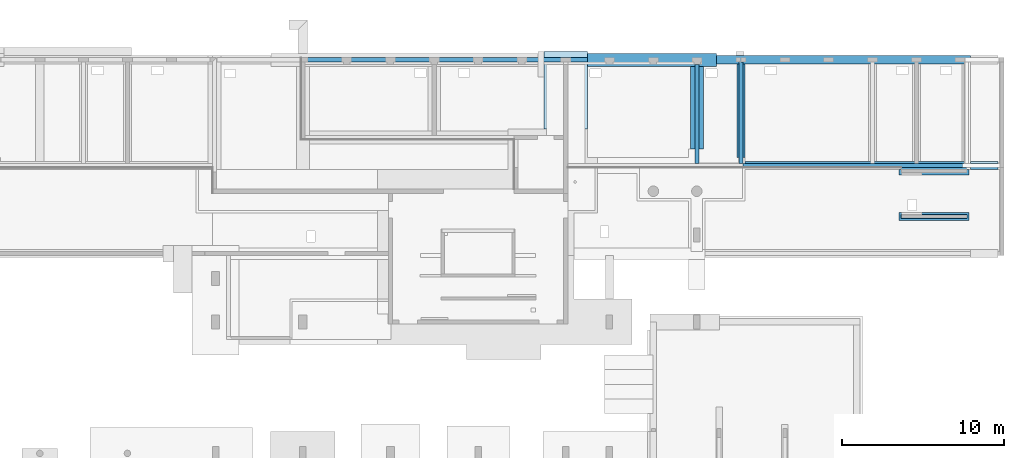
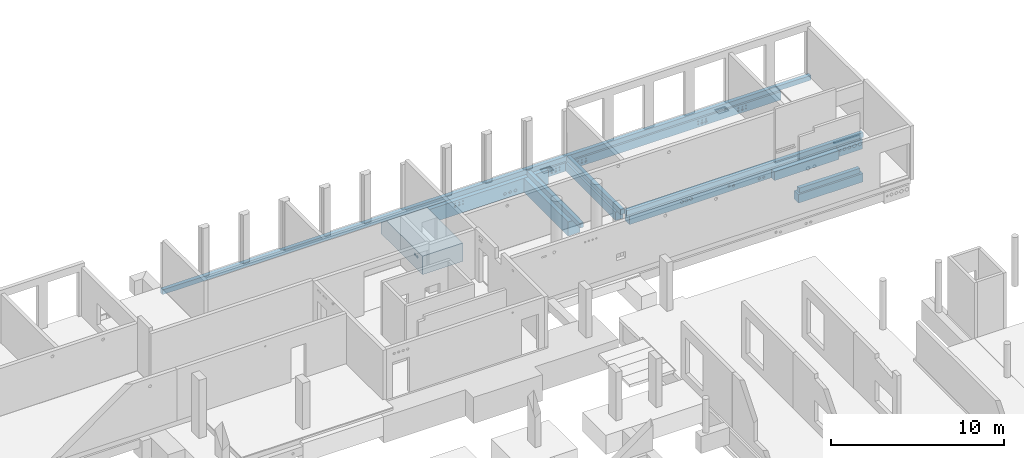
# One storey, part 8 of 60: 15 footings.
"""IFC2X3 building model written with IfcOpenShell, lengths in millimetres."""

from ifc_helpers import new_model, entity, si_unit, converted_unit, derived_unit, direction, frame, frame_2d, origin, origin_2d_with_axis, place, context, subcontext, project, spatial, polyline, circle_curve, parameter, trimmed, segment, composite_curve, rectangle, outline, extrude, material, element, save


model = new_model("IFC2X3")

# Units and contexts
model_context = context("Model", 3, precision=0.01, world=origin(), true_north=direction((6.12303176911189e-17, 1.0)))
body_context = subcontext(model_context, "Body", "Model", "MODEL_VIEW")
ifc_project = project(units=[si_unit("LENGTHUNIT", "METRE", prefix="MILLI"), si_unit("AREAUNIT", "SQUARE_METRE"), si_unit("VOLUMEUNIT", "CUBIC_METRE"), converted_unit("PLANEANGLEUNIT", "DEGREE", entity("IfcRatioMeasure", 0.0174532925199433), si_unit("PLANEANGLEUNIT", "RADIAN"), dimensions=[0, 0, 0, 0, 0, 0, 0]), si_unit("MASSUNIT", "GRAM", prefix="KILO"), derived_unit("MASSDENSITYUNIT", [(si_unit("MASSUNIT", "GRAM", prefix="KILO"), 1), (si_unit("LENGTHUNIT", "METRE"), -3)]), si_unit("TIMEUNIT", "SECOND"), si_unit("FREQUENCYUNIT", "HERTZ"), si_unit("THERMODYNAMICTEMPERATUREUNIT", "DEGREE_CELSIUS"), derived_unit("THERMALTRANSMITTANCEUNIT", [(si_unit("MASSUNIT", "GRAM", prefix="KILO"), 1), (si_unit("THERMODYNAMICTEMPERATUREUNIT", "KELVIN"), -1), (si_unit("TIMEUNIT", "SECOND"), -3)]), derived_unit("VOLUMETRICFLOWRATEUNIT", [(si_unit("LENGTHUNIT", "METRE"), 3), (si_unit("TIMEUNIT", "SECOND"), -1)]), si_unit("ELECTRICCURRENTUNIT", "AMPERE"), si_unit("ELECTRICVOLTAGEUNIT", "VOLT"), si_unit("POWERUNIT", "WATT"), si_unit("FORCEUNIT", "NEWTON", prefix="KILO"), si_unit("ILLUMINANCEUNIT", "LUX"), si_unit("LUMINOUSFLUXUNIT", "LUMEN"), si_unit("LUMINOUSINTENSITYUNIT", "CANDELA"), derived_unit("USERDEFINED", [(si_unit("MASSUNIT", "GRAM", prefix="KILO"), -1), (si_unit("LENGTHUNIT", "METRE"), -2), (si_unit("TIMEUNIT", "SECOND"), 3), (si_unit("LUMINOUSFLUXUNIT", "LUMEN"), 1)]), derived_unit("LINEARVELOCITYUNIT", [(si_unit("LENGTHUNIT", "METRE"), 1), (si_unit("TIMEUNIT", "SECOND"), -1)]), si_unit("PRESSUREUNIT", "PASCAL"), derived_unit("USERDEFINED", [(si_unit("LENGTHUNIT", "METRE"), -2), (si_unit("MASSUNIT", "GRAM", prefix="KILO"), 1), (si_unit("TIMEUNIT", "SECOND"), -2)])], contexts=[model_context])

# Site, building, storey
site_placement = place(None, origin())
site = spatial("IfcSite", under=ifc_project, at=site_placement, Name="Default", CompositionType="ELEMENT")
building_placement = place(site_placement, origin())
building = spatial("IfcBuilding", under=site, at=building_placement, Name="niet gebruiken", CompositionType="ELEMENT")
storey_placement = place(building_placement, origin())
storey = spatial("IfcBuildingStorey", under=building, at=storey_placement, Name="00 begane grond", CompositionType="ELEMENT", Elevation=0.0)

# Footings
ifc_material = material(Name="NLRS_f2_beton ihwg")
footing_1_placement = place(storey_placement, origin())
element("IfcFooting", 1, at=footing_1_placement, inside=storey, material=ifc_material, Name="NLRS_16.12_SF_WPB_funderingsbalk ihwg recht_gen:500x600", ObjectType="NLRS_16.12_SF_WPB_funderingsbalk ihwg recht_gen:500x600", PredefinedType="FOOTING_BEAM", context=body_context, shape_type="SweptSolid", body=[
    extrude(outline(polyline([(-8616.66655998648, -300.0), (-7366.66655998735, -300.0), (-6866.66655998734, -300.0), (733.333440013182, -300.0), (1233.33344001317, -300.0), (3433.33344001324, -300.0), (3933.33344001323, -300.0), (6508.33247989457, -300.0), (7008.33344001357, -300.0), (7008.33344001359, 300.0), (6508.33247989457, 300.0), (3933.33344001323, 300.0), (3433.33344001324, 300.0), (1233.33344001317, 300.0), (733.333440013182, 300.0), (-6866.66655998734, 300.0), (-7366.66655998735, 300.0), (-8616.66655998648, 300.0), (-8616.66655998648, -300.0)]), holes=[composite_curve([segment(trimmed(circle_curve(frame_2d((-7776.66655998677, 83.0), x_axis=(1.0, 0.0)), 37.5), [parameter(4.07110999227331e-13)], [parameter(180.0)], True, "PARAMETER"), False, "CONTINUOUS"), segment(trimmed(circle_curve(frame_2d((-7776.66655998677, 83.0), x_axis=(1.0, 0.0)), 37.5), [parameter(180.0)], [parameter(360.0)], True, "PARAMETER"), False, "CONTINUOUS")], self_intersect=False), composite_curve([segment(trimmed(circle_curve(frame_2d((-8026.66655998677, 83.0), x_axis=(1.0, 0.0)), 62.5), [parameter(3.56222124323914e-13)], [parameter(180.0)], True, "PARAMETER"), False, "CONTINUOUS"), segment(trimmed(circle_curve(frame_2d((-8026.66655998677, 83.0), x_axis=(1.0, 0.0)), 62.5), [parameter(180.0)], [parameter(360.0)], True, "PARAMETER"), False, "CONTINUOUS")], self_intersect=False), composite_curve([segment(trimmed(circle_curve(frame_2d((-8301.66655998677, 83.0), x_axis=(1.0, 0.0)), 62.5), [parameter(3.56222124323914e-13)], [parameter(180.0)], True, "PARAMETER"), False, "CONTINUOUS"), segment(trimmed(circle_curve(frame_2d((-8301.66655998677, 83.0), x_axis=(1.0, 0.0)), 62.5), [parameter(180.0)], [parameter(360.0)], True, "PARAMETER"), False, "CONTINUOUS")], self_intersect=False), composite_curve([segment(trimmed(circle_curve(frame_2d((-7776.66655998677, -117.0), x_axis=(1.0, 0.0)), 40.0), [parameter(4.07110999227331e-13)], [parameter(180.0)], True, "PARAMETER"), False, "CONTINUOUS"), segment(trimmed(circle_curve(frame_2d((-7776.66655998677, -117.0), x_axis=(1.0, 0.0)), 40.0), [parameter(180.0)], [parameter(360.0)], True, "PARAMETER"), False, "CONTINUOUS")], self_intersect=False), composite_curve([segment(trimmed(circle_curve(frame_2d((-8026.66655998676, -117.0), x_axis=(1.0, 0.0)), 37.5), [parameter(4.07110999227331e-13)], [parameter(180.0)], True, "PARAMETER"), False, "CONTINUOUS"), segment(trimmed(circle_curve(frame_2d((-8026.66655998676, -117.0), x_axis=(1.0, 0.0)), 37.5), [parameter(180.0)], [parameter(360.0)], True, "PARAMETER"), False, "CONTINUOUS")], self_intersect=False), composite_curve([segment(trimmed(circle_curve(frame_2d((-8301.66655998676, -117.0), x_axis=(1.0, 0.0)), 40.0), [parameter(4.07110999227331e-13)], [parameter(180.0)], True, "PARAMETER"), False, "CONTINUOUS"), segment(trimmed(circle_curve(frame_2d((-8301.66655998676, -117.0), x_axis=(1.0, 0.0)), 40.0), [parameter(180.0)], [parameter(360.0)], True, "PARAMETER"), False, "CONTINUOUS")], self_intersect=False), composite_curve([segment(trimmed(circle_curve(frame_2d((2008.33344001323, 88.0), x_axis=(-1.0, 0.0)), 80.0), [parameter(180.0)], [parameter(360.0)], True, "PARAMETER"), False, "CONTINUOUS"), segment(trimmed(circle_curve(frame_2d((2008.33344001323, 88.0), x_axis=(-1.0, 0.0)), 80.0), [parameter(3.05333249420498e-13)], [parameter(180.0)], True, "PARAMETER"), False, "CONTINUOUS")], self_intersect=False), composite_curve([segment(trimmed(circle_curve(frame_2d((1733.33344001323, 88.0), x_axis=(-1.0, 0.0)), 80.0), [parameter(180.0)], [parameter(360.0)], True, "PARAMETER"), False, "CONTINUOUS"), segment(trimmed(circle_curve(frame_2d((1733.33344001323, 88.0), x_axis=(-1.0, 0.0)), 80.0), [parameter(3.05333249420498e-13)], [parameter(180.0)], True, "PARAMETER"), False, "CONTINUOUS")], self_intersect=False), composite_curve([segment(trimmed(circle_curve(frame_2d((1483.33344001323, 83.0), x_axis=(-1.0, 0.0)), 37.5), [parameter(180.0)], [parameter(360.0)], True, "PARAMETER"), False, "CONTINUOUS"), segment(trimmed(circle_curve(frame_2d((1483.33344001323, 83.0), x_axis=(-1.0, 0.0)), 37.5), [parameter(4.07110999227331e-13)], [parameter(180.0)], True, "PARAMETER"), False, "CONTINUOUS")], self_intersect=False), composite_curve([segment(trimmed(circle_curve(frame_2d((2008.33344001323, -117.0), x_axis=(-1.0, 0.0)), 40.0), [parameter(180.0)], [parameter(360.0)], True, "PARAMETER"), False, "CONTINUOUS"), segment(trimmed(circle_curve(frame_2d((2008.33344001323, -117.0), x_axis=(-1.0, 0.0)), 40.0), [parameter(4.07110999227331e-13)], [parameter(180.0)], True, "PARAMETER"), False, "CONTINUOUS")], self_intersect=False), composite_curve([segment(trimmed(circle_curve(frame_2d((1733.33344001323, -117.0), x_axis=(-1.0, 0.0)), 37.5), [parameter(180.0)], [parameter(360.0)], True, "PARAMETER"), False, "CONTINUOUS"), segment(trimmed(circle_curve(frame_2d((1733.33344001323, -117.0), x_axis=(-1.0, 0.0)), 37.5), [parameter(4.07110999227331e-13)], [parameter(180.0)], True, "PARAMETER"), False, "CONTINUOUS")], self_intersect=False), composite_curve([segment(trimmed(circle_curve(frame_2d((1483.33344001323, -117.0), x_axis=(-1.0, 0.0)), 40.0), [parameter(180.0)], [parameter(360.0)], True, "PARAMETER"), False, "CONTINUOUS"), segment(trimmed(circle_curve(frame_2d((1483.33344001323, -117.0), x_axis=(-1.0, 0.0)), 40.0), [parameter(4.07110999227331e-13)], [parameter(180.0)], True, "PARAMETER"), False, "CONTINUOUS")], self_intersect=False), composite_curve([segment(trimmed(circle_curve(frame_2d((4683.33344001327, 83.0), x_axis=(1.0, 0.0)), 37.5), [parameter(4.07110999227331e-13)], [parameter(180.0)], True, "PARAMETER"), False, "CONTINUOUS"), segment(trimmed(circle_curve(frame_2d((4683.33344001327, 83.0), x_axis=(1.0, 0.0)), 37.5), [parameter(180.0)], [parameter(360.0)], True, "PARAMETER"), False, "CONTINUOUS")], self_intersect=False), composite_curve([segment(trimmed(circle_curve(frame_2d((4433.33344001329, 83.0), x_axis=(1.0, 0.0)), 62.5), [parameter(3.56222124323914e-13)], [parameter(180.0)], True, "PARAMETER"), False, "CONTINUOUS"), segment(trimmed(circle_curve(frame_2d((4433.33344001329, 83.0), x_axis=(1.0, 0.0)), 62.5), [parameter(180.0)], [parameter(360.0)], True, "PARAMETER"), False, "CONTINUOUS")], self_intersect=False), composite_curve([segment(trimmed(circle_curve(frame_2d((4158.33344001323, 83.0), x_axis=(1.0, 0.0)), 62.5), [parameter(3.56222124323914e-13)], [parameter(180.0)], True, "PARAMETER"), False, "CONTINUOUS"), segment(trimmed(circle_curve(frame_2d((4158.33344001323, 83.0), x_axis=(1.0, 0.0)), 62.5), [parameter(180.0)], [parameter(360.0)], True, "PARAMETER"), False, "CONTINUOUS")], self_intersect=False), composite_curve([segment(trimmed(circle_curve(frame_2d((4158.3334400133, -117.0), x_axis=(1.0, 0.0)), 40.0), [parameter(4.07110999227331e-13)], [parameter(180.0)], True, "PARAMETER"), False, "CONTINUOUS"), segment(trimmed(circle_curve(frame_2d((4158.3334400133, -117.0), x_axis=(1.0, 0.0)), 40.0), [parameter(180.0)], [parameter(360.0)], True, "PARAMETER"), False, "CONTINUOUS")], self_intersect=False), composite_curve([segment(trimmed(circle_curve(frame_2d((4433.33344001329, -117.0), x_axis=(1.0, 0.0)), 37.5), [parameter(4.07110999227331e-13)], [parameter(180.0)], True, "PARAMETER"), False, "CONTINUOUS"), segment(trimmed(circle_curve(frame_2d((4433.33344001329, -117.0), x_axis=(1.0, 0.0)), 37.5), [parameter(180.0)], [parameter(360.0)], True, "PARAMETER"), False, "CONTINUOUS")], self_intersect=False), composite_curve([segment(trimmed(circle_curve(frame_2d((4683.33344001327, -117.0), x_axis=(1.0, 0.0)), 40.0), [parameter(4.07110999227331e-13)], [parameter(180.0)], True, "PARAMETER"), False, "CONTINUOUS"), segment(trimmed(circle_curve(frame_2d((4683.33344001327, -117.0), x_axis=(1.0, 0.0)), 40.0), [parameter(180.0)], [parameter(360.0)], True, "PARAMETER"), False, "CONTINUOUS")], self_intersect=False), composite_curve([segment(trimmed(circle_curve(frame_2d((-6291.66655998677, 83.0), x_axis=(-1.0, 0.0)), 62.5), [parameter(180.0)], [parameter(360.0)], True, "PARAMETER"), False, "CONTINUOUS"), segment(trimmed(circle_curve(frame_2d((-6291.66655998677, 83.0), x_axis=(-1.0, 0.0)), 62.5), [parameter(3.56222124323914e-13)], [parameter(180.0)], True, "PARAMETER"), False, "CONTINUOUS")], self_intersect=False), composite_curve([segment(trimmed(circle_curve(frame_2d((-6016.66655998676, 83.0), x_axis=(-1.0, 0.0)), 62.5), [parameter(180.0)], [parameter(360.0)], True, "PARAMETER"), False, "CONTINUOUS"), segment(trimmed(circle_curve(frame_2d((-6016.66655998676, 83.0), x_axis=(-1.0, 0.0)), 62.5), [parameter(3.56222124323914e-13)], [parameter(180.0)], True, "PARAMETER"), False, "CONTINUOUS")], self_intersect=False), composite_curve([segment(trimmed(circle_curve(frame_2d((-6016.66655998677, -117.0), x_axis=(-1.0, 0.0)), 40.0), [parameter(180.0)], [parameter(360.0)], True, "PARAMETER"), False, "CONTINUOUS"), segment(trimmed(circle_curve(frame_2d((-6016.66655998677, -117.0), x_axis=(-1.0, 0.0)), 40.0), [parameter(4.07110999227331e-13)], [parameter(180.0)], True, "PARAMETER"), False, "CONTINUOUS")], self_intersect=False), composite_curve([segment(trimmed(circle_curve(frame_2d((-6541.66655998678, 83.0), x_axis=(-1.0, 0.0)), 37.5), [parameter(180.0)], [parameter(360.0)], True, "PARAMETER"), False, "CONTINUOUS"), segment(trimmed(circle_curve(frame_2d((-6541.66655998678, 83.0), x_axis=(-1.0, 0.0)), 37.5), [parameter(4.07110999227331e-13)], [parameter(180.0)], True, "PARAMETER"), False, "CONTINUOUS")], self_intersect=False), composite_curve([segment(trimmed(circle_curve(frame_2d((-6541.66655998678, -117.0), x_axis=(-1.0, 0.0)), 40.0), [parameter(180.0)], [parameter(360.0)], True, "PARAMETER"), False, "CONTINUOUS"), segment(trimmed(circle_curve(frame_2d((-6541.66655998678, -117.0), x_axis=(-1.0, 0.0)), 40.0), [parameter(4.07110999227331e-13)], [parameter(180.0)], True, "PARAMETER"), False, "CONTINUOUS")], self_intersect=False), composite_curve([segment(trimmed(circle_curve(frame_2d((-6291.66655998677, -117.0), x_axis=(-1.0, 0.0)), 37.5), [parameter(180.0)], [parameter(360.0)], True, "PARAMETER"), False, "CONTINUOUS"), segment(trimmed(circle_curve(frame_2d((-6291.66655998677, -117.0), x_axis=(-1.0, 0.0)), 37.5), [parameter(4.07110999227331e-13)], [parameter(180.0)], True, "PARAMETER"), False, "CONTINUOUS")], self_intersect=False)]), frame((115116.666559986, 52881.0, -792.0), z_axis=(0.0, 1.0, 0.0), x_axis=(1.0, 0.0, 0.0)), (0.0, 0.0, 1.0), 499.999999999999),
])
footing_2_placement = place(storey_placement, origin())
element("IfcFooting", 2, at=footing_2_placement, inside=storey, material=ifc_material, Name="NLRS_16.12_SF_WPB_funderingsbalk ihwg recht_gen:500x610", ObjectType="NLRS_16.12_SF_WPB_funderingsbalk ihwg recht_gen:500x610", PredefinedType="FOOTING_BEAM", context=body_context, shape_type="SweptSolid", body=[
    extrude(outline(polyline([(-4586.24927991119, -305.0), (-4511.25024002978, -305.0), (-191.250240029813, -305.0), (9288.74975997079, -305.0), (9288.74975997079, 305.0), (-191.250240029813, 305.0), (-4511.25024002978, 305.0), (-4586.24927991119, 305.0), (-4586.24927991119, -305.0)]), holes=[composite_curve([segment(trimmed(circle_curve(frame_2d((5776.25229360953, 82.0), x_axis=(-1.0, 0.0)), 99.999999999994), [parameter(0.0)], [parameter(180.000000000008)], True, "PARAMETER"), False, "CONTINUOUS"), segment(trimmed(circle_curve(frame_2d((5776.25229360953, 82.0), x_axis=(1.0, 0.0)), 99.9999999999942), [parameter(0.0)], [parameter(180.000000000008)], True, "PARAMETER"), False, "CONTINUOUS")], self_intersect=False), composite_curve([segment(trimmed(circle_curve(frame_2d((5476.2518122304, 82.0), x_axis=(-1.0, 0.0)), 99.999999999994), [parameter(0.0)], [parameter(180.000000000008)], True, "PARAMETER"), False, "CONTINUOUS"), segment(trimmed(circle_curve(frame_2d((5476.2518122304, 82.0), x_axis=(1.0, 0.0)), 99.9999999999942), [parameter(0.0)], [parameter(180.000000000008)], True, "PARAMETER"), False, "CONTINUOUS")], self_intersect=False), composite_curve([segment(trimmed(circle_curve(frame_2d((5176.25178689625, 82.0), x_axis=(-1.0, 0.0)), 99.999999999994), [parameter(0.0)], [parameter(180.000000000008)], True, "PARAMETER"), False, "CONTINUOUS"), segment(trimmed(circle_curve(frame_2d((5176.25178689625, 82.0), x_axis=(1.0, 0.0)), 99.9999999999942), [parameter(0.0)], [parameter(180.000000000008)], True, "PARAMETER"), False, "CONTINUOUS")], self_intersect=False), composite_curve([segment(trimmed(circle_curve(frame_2d((618.752040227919, -88.0), x_axis=(-1.0, 0.0)), 80.0000000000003), [parameter(0.0)], [parameter(180.0)], True, "PARAMETER"), False, "CONTINUOUS"), segment(trimmed(circle_curve(frame_2d((618.752040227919, -88.0), x_axis=(1.0, 0.0)), 79.9999999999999), [parameter(0.0)], [parameter(180.000000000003)], True, "PARAMETER"), False, "CONTINUOUS")], self_intersect=False), composite_curve([segment(trimmed(circle_curve(frame_2d((318.752014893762, -88.0), x_axis=(-1.0, 0.0)), 80.0000000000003), [parameter(0.0)], [parameter(180.0)], True, "PARAMETER"), False, "CONTINUOUS"), segment(trimmed(circle_curve(frame_2d((318.752014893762, -88.0), x_axis=(1.0, 0.0)), 79.9999999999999), [parameter(0.0)], [parameter(180.000000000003)], True, "PARAMETER"), False, "CONTINUOUS")], self_intersect=False), composite_curve([segment(trimmed(circle_curve(frame_2d((2638.75201489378, 97.0), x_axis=(-1.0, 0.0)), 80.0000000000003), [parameter(0.0)], [parameter(180.0)], True, "PARAMETER"), False, "CONTINUOUS"), segment(trimmed(circle_curve(frame_2d((2638.75201489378, 97.0), x_axis=(1.0, 0.0)), 79.9999999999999), [parameter(0.0)], [parameter(180.000000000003)], True, "PARAMETER"), False, "CONTINUOUS")], self_intersect=False), composite_curve([segment(trimmed(circle_curve(frame_2d((2338.75201489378, 17.0), x_axis=(-1.0, 0.0)), 80.0000000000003), [parameter(0.0)], [parameter(180.0)], True, "PARAMETER"), False, "CONTINUOUS"), segment(trimmed(circle_curve(frame_2d((2338.75201489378, 17.0), x_axis=(1.0, 0.0)), 79.9999999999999), [parameter(0.0)], [parameter(180.000000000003)], True, "PARAMETER"), False, "CONTINUOUS")], self_intersect=False)]), frame((117538.74975997, 46371.0, -797.0), z_axis=(0.0, 1.0, 0.0), x_axis=(-1.0, 0.0, 0.0)), (0.0, 0.0, 1.0), 499.999999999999),
])
footing_3_placement = place(storey_placement, origin())
element("IfcFooting", 3, at=footing_3_placement, inside=storey, material=ifc_material, Name="NLRS_16.12_SF_WPB_funderingsbalk ihwg recht_gen:500x610", ObjectType="NLRS_16.12_SF_WPB_funderingsbalk ihwg recht_gen:500x610", PredefinedType="FOOTING_BEAM", context=body_context, shape_type="SweptSolid", body=[
    extrude(rectangle(XDim=349.999999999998, YDim=4319.99999999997, at=frame_2d((4.33431068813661e-12, -8.64019966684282e-12), x_axis=(1.0, 0.0))), frame((119890.0, 46196.0, -1102.0), z_axis=(0.0, 0.0, 1.0), x_axis=(0.0, 1.0, 0.0)), (0.0, 0.0, 1.0), 609.999999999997),
])
footing_4_placement = place(storey_placement, origin())
element("IfcFooting", 4, at=footing_4_placement, inside=storey, material=ifc_material, Name="NLRS_16.12_SF_WPB_funderingsbalk ihwg recht_gen:500x600", ObjectType="NLRS_16.12_SF_WPB_funderingsbalk ihwg recht_gen:500x600", PredefinedType="FOOTING_BEAM", context=body_context, shape_type="SweptSolid", body=[
    extrude(rectangle(XDim=4319.99999999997, YDim=499.999999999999, at=frame_2d((8.64019966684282e-12, 0.0), x_axis=(1.0, 0.0))), frame((119890.0, 43486.0, -1002.0)), (0.0, 0.0, 1.0), 599.999999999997),
])
footing_5_placement = place(storey_placement, origin())
element("IfcFooting", 5, at=footing_5_placement, inside=storey, material=ifc_material, Name="NLRS_16.12_SF_WPB_opstort ihwg recht_gen:250x332", ObjectType="NLRS_16.12_SF_WPB_opstort ihwg recht_gen:250x332", PredefinedType="FOOTING_BEAM", context=body_context, shape_type="SweptSolid", body=[
    extrude(rectangle(XDim=43300.0, YDim=250.000000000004, at=frame_2d((-6719.99983997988, 97.2222222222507), x_axis=(1.0, 0.0))), frame((109270.0, 53033.7777777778, -492.0)), (0.0, 0.0, 1.0), 331.999999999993),
])
footing_6_placement = place(storey_placement, origin())
element("IfcFooting", 6, at=footing_6_placement, inside=storey, material=ifc_material, Name="NLRS_16.12_SF_WPB_opstort ihwg recht_gen:250x332", ObjectType="NLRS_16.12_SF_WPB_opstort ihwg recht_gen:250x332", PredefinedType="FOOTING_BEAM", context=body_context, shape_type="SweptSolid", body=[
    extrude(rectangle(XDim=15825.0, YDim=250.000000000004, at=frame_2d((-2777.49979426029, -53.5714285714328), x_axis=(1.0, 0.0))), frame((118815.0, 46674.5714285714, -492.0)), (0.0, 0.0, 1.0), 331.999999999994),
])
footing_7_placement = place(storey_placement, origin())
element("IfcFooting", 7, at=footing_7_placement, inside=storey, material=ifc_material, Name="NLRS_16.12_SF_WPB_opstort ihwg recht_gen:250x332", ObjectType="NLRS_16.12_SF_WPB_opstort ihwg recht_gen:250x332", PredefinedType="FOOTING_BEAM", context=body_context, shape_type="SweptSolid", body=[
    extrude(rectangle(XDim=4059.99999999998, YDim=250.000000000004, at=frame_2d((8.64019966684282e-12, 0.0), x_axis=(1.0, 0.0))), frame((119890.0, 43486.0, -402.0)), (0.0, 0.0, 1.0), 331.999999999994),
])
footing_8_placement = place(storey_placement, origin())
element("IfcFooting", 8, at=footing_8_placement, inside=storey, material=ifc_material, Name="NLRS_16.12_SF_WPB_funderingsbalk ihwg recht_gen:500x600", ObjectType="NLRS_16.12_SF_WPB_funderingsbalk ihwg recht_gen:500x600", PredefinedType="FOOTING_BEAM", context=body_context, shape_type="SweptSolid", body=[
    extrude(rectangle(XDim=5760.00000000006, YDim=500.000000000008, at=frame_2d((0.0, 8.66862137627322e-12), x_axis=(1.0, 0.0))), frame((108000.0, 50001.0, -1092.0), z_axis=(0.0, 0.0, 1.0), x_axis=(0.0, -1.0, 0.0)), (0.0, 0.0, 1.0), 599.999999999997),
])
footing_9_placement = place(storey_placement, origin())
element("IfcFooting", 9, at=footing_9_placement, inside=storey, material=ifc_material, Name="NLRS_16.12_SF_WPB_opstort ihwg recht_gen:250x332", ObjectType="NLRS_16.12_SF_WPB_opstort ihwg recht_gen:250x332", PredefinedType="FOOTING_BEAM", context=body_context, shape_type="SweptSolid", body=[
    extrude(rectangle(XDim=6259.99999999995, YDim=249.999999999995, at=frame_2d((-4.32009983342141e-12, 8.66151594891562e-12), x_axis=(1.0, 0.0))), frame((108000.0, 49876.0, -492.0), z_axis=(0.0, 0.0, 1.0), x_axis=(0.0, 1.0, 0.0)), (0.0, 0.0, 1.0), 331.999999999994),
])
footing_10_placement = place(storey_placement, origin())
element("IfcFooting", 10, at=footing_10_placement, inside=storey, material=ifc_material, Name="NLRS_16.12_SF_WPB_funderingsbalk ihwg recht_gen:2700x1300", ObjectType="NLRS_16.12_SF_WPB_funderingsbalk ihwg recht_gen:2700x1300", PredefinedType="FOOTING_BEAM", context=body_context, shape_type="SweptSolid", body=[
    extrude(outline(polyline([(-2661.6666666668, -650.0), (543.3333333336, -650.0), (2118.33333333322, -650.0), (2118.33333333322, 650.0), (543.3333333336, 650.0), (-2661.6666666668, 650.0), (-2661.6666666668, -650.0)]), holes=[composite_curve([segment(trimmed(circle_curve(frame_2d((-2056.92767030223, 257.0), x_axis=(1.0, 0.0)), 80.0), [parameter(180.0)], [parameter(360.0)], True, "PARAMETER"), False, "CONTINUOUS"), segment(trimmed(circle_curve(frame_2d((-2056.92767030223, 257.0), x_axis=(1.0, 0.0)), 80.0), [parameter(3.05333249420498e-13)], [parameter(180.0)], True, "PARAMETER"), False, "CONTINUOUS")], self_intersect=False), composite_curve([segment(trimmed(circle_curve(frame_2d((-1806.92767030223, 257.0), x_axis=(1.0, 0.0)), 80.0), [parameter(180.0)], [parameter(360.0)], True, "PARAMETER"), False, "CONTINUOUS"), segment(trimmed(circle_curve(frame_2d((-1806.92767030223, 257.0), x_axis=(1.0, 0.0)), 80.0), [parameter(3.05333249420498e-13)], [parameter(180.0)], True, "PARAMETER"), False, "CONTINUOUS")], self_intersect=False)]), frame((95850.0, 51512.6666666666, -1142.0), z_axis=(1.0, 0.0, 0.0), x_axis=(0.0, 1.0, 0.0)), (0.0, 0.0, 1.0), 2700.00000000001),
])
footing_11_placement = place(storey_placement, origin())
element("IfcFooting", 11, at=footing_11_placement, inside=storey, material=ifc_material, Name="NLRS_16.12_SF_WPB_opstort ihwg recht_gen:250x332", ObjectType="NLRS_16.12_SF_WPB_opstort ihwg recht_gen:250x332", PredefinedType="FOOTING_BEAM", context=body_context, shape_type="SweptSolid", body=[
    extrude(rectangle(XDim=6099.99999999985, YDim=250.000000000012, at=frame_2d((8.64019966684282e-12, 0.0), x_axis=(1.0, 0.0))), frame((105275.0, 49796.0, -492.0), z_axis=(0.0, 0.0, 1.0), x_axis=(0.0, 1.0, 0.0)), (0.0, 0.0, 1.0), 331.999999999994),
])
footing_12_placement = place(storey_placement, origin())
element("IfcFooting", 12, at=footing_12_placement, inside=storey, material=ifc_material, Name="NLRS_16.12_SF_WPB_funderingsbalk ihwg recht_gen:800x1000", ObjectType="NLRS_16.12_SF_WPB_funderingsbalk ihwg recht_gen:800x1000", PredefinedType="FOOTING_BEAM", context=body_context, shape_type="SweptSolid", body=[
    extrude(outline(polyline([(-2600.0, -500.0), (-1775.0, -500.0), (-975.0, -500.0), (5350.0, -500.0), (5350.0, 500.0), (-975.0, 500.0), (-1775.0, 500.0), (-2600.0, 500.0), (-2600.0, -500.0)]), holes=[composite_curve([segment(trimmed(circle_curve(frame_2d((5000.18784364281, -138.0), x_axis=(1.0, 0.0)), 80.0), [parameter(180.0)], [parameter(360.0)], True, "PARAMETER"), False, "CONTINUOUS"), segment(trimmed(circle_curve(frame_2d((5000.18784364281, -138.0), x_axis=(1.0, 0.0)), 80.0), [parameter(4.07110999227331e-13)], [parameter(180.0)], True, "PARAMETER"), False, "CONTINUOUS")], self_intersect=False), composite_curve([segment(trimmed(circle_curve(frame_2d((5249.87632255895, -138.0), x_axis=(1.0, 0.0)), 80.0), [parameter(180.0)], [parameter(360.0)], True, "PARAMETER"), False, "CONTINUOUS"), segment(trimmed(circle_curve(frame_2d((5249.87632255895, -138.0), x_axis=(1.0, 0.0)), 80.0), [parameter(3.05333249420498e-13)], [parameter(180.0)], True, "PARAMETER"), False, "CONTINUOUS")], self_intersect=False), composite_curve([segment(trimmed(circle_curve(frame_2d((3624.98314127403, 117.0), x_axis=(-1.0, 0.0)), 62.5), [parameter(3.56222124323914e-13)], [parameter(180.0)], True, "PARAMETER"), False, "CONTINUOUS"), segment(trimmed(circle_curve(frame_2d((3624.98314127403, 117.0), x_axis=(-1.0, 0.0)), 62.5), [parameter(180.0)], [parameter(360.0)], True, "PARAMETER"), False, "CONTINUOUS")], self_intersect=False), composite_curve([segment(trimmed(circle_curve(frame_2d((3349.98314127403, 117.0), x_axis=(-1.0, 0.0)), 62.5), [parameter(3.56222124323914e-13)], [parameter(180.0)], True, "PARAMETER"), False, "CONTINUOUS"), segment(trimmed(circle_curve(frame_2d((3349.98314127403, 117.0), x_axis=(-1.0, 0.0)), 62.5), [parameter(180.0)], [parameter(360.0)], True, "PARAMETER"), False, "CONTINUOUS")], self_intersect=False), composite_curve([segment(trimmed(circle_curve(frame_2d((3099.98314127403, 117.0), x_axis=(-1.0, 0.0)), 37.5), [parameter(4.07110999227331e-13)], [parameter(180.0)], True, "PARAMETER"), False, "CONTINUOUS"), segment(trimmed(circle_curve(frame_2d((3099.98314127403, 117.0), x_axis=(-1.0, 0.0)), 37.5), [parameter(180.0)], [parameter(360.0)], True, "PARAMETER"), False, "CONTINUOUS")], self_intersect=False), composite_curve([segment(trimmed(circle_curve(frame_2d((3624.98314127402, 317.0), x_axis=(-1.0, 0.0)), 40.0), [parameter(4.07110999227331e-13)], [parameter(180.0)], True, "PARAMETER"), False, "CONTINUOUS"), segment(trimmed(circle_curve(frame_2d((3624.98314127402, 317.0), x_axis=(-1.0, 0.0)), 40.0), [parameter(180.0)], [parameter(360.0)], True, "PARAMETER"), False, "CONTINUOUS")], self_intersect=False), composite_curve([segment(trimmed(circle_curve(frame_2d((3349.98314127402, 317.0), x_axis=(-1.0, 0.0)), 37.5), [parameter(4.07110999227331e-13)], [parameter(180.0)], True, "PARAMETER"), False, "CONTINUOUS"), segment(trimmed(circle_curve(frame_2d((3349.98314127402, 317.0), x_axis=(-1.0, 0.0)), 37.5), [parameter(180.0)], [parameter(360.0)], True, "PARAMETER"), False, "CONTINUOUS")], self_intersect=False), composite_curve([segment(trimmed(circle_curve(frame_2d((3100.0, 317.0), x_axis=(-1.0, 0.0)), 40.0), [parameter(4.07110999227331e-13)], [parameter(180.0)], True, "PARAMETER"), False, "CONTINUOUS"), segment(trimmed(circle_curve(frame_2d((3100.0, 317.0), x_axis=(-1.0, 0.0)), 40.0), [parameter(180.0)], [parameter(360.0)], True, "PARAMETER"), False, "CONTINUOUS")], self_intersect=False), composite_curve([segment(trimmed(circle_curve(frame_2d((-400.0, -158.0), x_axis=(1.0, 0.0)), 100.0), [parameter(180.0)], [parameter(360.0)], True, "PARAMETER"), False, "CONTINUOUS"), segment(trimmed(circle_curve(frame_2d((-400.0, -158.0), x_axis=(1.0, 0.0)), 100.0), [parameter(4.07110999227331e-13)], [parameter(180.0)], True, "PARAMETER"), False, "CONTINUOUS")], self_intersect=False), composite_curve([segment(trimmed(circle_curve(frame_2d((-50.0, -158.0), x_axis=(1.0, 0.0)), 100.0), [parameter(180.0)], [parameter(360.0)], True, "PARAMETER"), False, "CONTINUOUS"), segment(trimmed(circle_curve(frame_2d((-50.0, -158.0), x_axis=(1.0, 0.0)), 100.0), [parameter(4.07110999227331e-13)], [parameter(180.0)], True, "PARAMETER"), False, "CONTINUOUS")], self_intersect=False), composite_curve([segment(trimmed(circle_curve(frame_2d((300.0, -158.0), x_axis=(1.0, 0.0)), 100.0), [parameter(180.0)], [parameter(360.0)], True, "PARAMETER"), False, "CONTINUOUS"), segment(trimmed(circle_curve(frame_2d((300.0, -158.0), x_axis=(1.0, 0.0)), 100.0), [parameter(4.07110999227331e-13)], [parameter(180.0)], True, "PARAMETER"), False, "CONTINUOUS")], self_intersect=False)]), frame((103900.0, 52731.0, -992.0), z_axis=(0.0, 1.0, 0.0), x_axis=(-1.0, 0.0, 0.0)), (0.0, 0.0, 1.0), 800.0),
])
footing_13_placement = place(storey_placement, origin())
element("IfcFooting", 13, at=footing_13_placement, inside=storey, material=ifc_material, Name="NLRS_16.12_SF_WPB_funderingsbalk ihwg recht_gen:800x1000", ObjectType="NLRS_16.12_SF_WPB_funderingsbalk ihwg recht_gen:800x1000", PredefinedType="FOOTING_BEAM", context=body_context, shape_type="SweptSolid", body=[
    extrude(rectangle(XDim=5099.99999999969, YDim=800.000000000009, at=origin_2d_with_axis()), frame((105275.0, 50181.0, -1492.0), z_axis=(0.0, 0.0, 1.0), x_axis=(0.0, 1.0, 0.0)), (0.0, 0.0, 1.0), 999.999999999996),
])
footing_14_placement = place(storey_placement, origin())
element("IfcFooting", 14, at=footing_14_placement, inside=storey, material=ifc_material, Name="NLRS_16.12_SF_WPB_opstort ihwg recht_gen:125x90", ObjectType="NLRS_16.12_SF_WPB_opstort ihwg recht_gen:125x90", PredefinedType="FOOTING_BEAM", context=body_context, shape_type="SweptSolid", body=[
    extrude(rectangle(XDim=1700.00096011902, YDim=124.999999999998, at=frame_2d((0.0, -4.33075797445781e-12), x_axis=(1.0, 0.0))), frame((122974.99951994, 46808.5, -492.0), z_axis=(0.0, 0.0, 1.0), x_axis=(-1.0, 0.0, 0.0)), (0.0, 0.0, 1.0), 89.9999999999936),
])
footing_15_placement = place(storey_placement, origin())
element("IfcFooting", 15, at=footing_15_placement, inside=storey, material=ifc_material, Name="NLRS_16.12_SF_WPB_funderingsbalk ihwg recht_gen:500x708", ObjectType="NLRS_16.12_SF_WPB_funderingsbalk ihwg recht_gen:500x708", PredefinedType="FOOTING_BEAM", context=body_context, shape_type="SweptSolid", body=[
    extrude(outline(polyline([(-680.000384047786, -405.199999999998), (1020.00057607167, -405.199999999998), (1020.00057607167, 302.799999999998), (-680.000384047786, 302.799999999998), (-680.000384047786, 204.799999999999), (-680.000384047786, -405.199999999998)]), holes=[composite_curve([segment(trimmed(circle_curve(frame_2d((130.219505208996, -107.200000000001), x_axis=(1.0, 0.0)), 100.0), [parameter(4.07110999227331e-13)], [parameter(180.0)], True, "PARAMETER"), False, "CONTINUOUS"), segment(trimmed(circle_curve(frame_2d((130.219505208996, -107.200000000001), x_axis=(1.0, 0.0)), 100.0), [parameter(180.0)], [parameter(360.0)], True, "PARAMETER"), False, "CONTINUOUS")], self_intersect=False), composite_curve([segment(trimmed(circle_curve(frame_2d((475.131254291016, -107.200000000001), x_axis=(1.0, 0.0)), 125.0), [parameter(3.05333249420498e-13)], [parameter(180.0)], True, "PARAMETER"), False, "CONTINUOUS"), segment(trimmed(circle_curve(frame_2d((475.131254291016, -107.200000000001), x_axis=(1.0, 0.0)), 125.0), [parameter(180.0)], [parameter(360.0)], True, "PARAMETER"), False, "CONTINUOUS")], self_intersect=False), composite_curve([segment(trimmed(circle_curve(frame_2d((845.182611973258, -107.200000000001), x_axis=(1.0, 0.0)), 125.0), [parameter(3.05333249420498e-13)], [parameter(180.0)], True, "PARAMETER"), False, "CONTINUOUS"), segment(trimmed(circle_curve(frame_2d((845.182611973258, -107.200000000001), x_axis=(1.0, 0.0)), 125.0), [parameter(180.0)], [parameter(360.0)], True, "PARAMETER"), False, "CONTINUOUS")], self_intersect=False), composite_curve([segment(trimmed(circle_curve(frame_2d((-189.780494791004, -107.200000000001), x_axis=(1.0, 0.0)), 100.0), [parameter(4.07110999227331e-13)], [parameter(180.0)], True, "PARAMETER"), False, "CONTINUOUS"), segment(trimmed(circle_curve(frame_2d((-189.780494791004, -107.200000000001), x_axis=(1.0, 0.0)), 100.0), [parameter(180.0)], [parameter(360.0)], True, "PARAMETER"), False, "CONTINUOUS")], self_intersect=False), composite_curve([segment(trimmed(circle_curve(frame_2d((-474.780494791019, -107.200000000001), x_axis=(1.0, 0.0)), 62.5), [parameter(3.56222124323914e-13)], [parameter(180.0)], True, "PARAMETER"), False, "CONTINUOUS"), segment(trimmed(circle_curve(frame_2d((-474.780494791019, -107.200000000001), x_axis=(1.0, 0.0)), 62.5), [parameter(180.0)], [parameter(360.0)], True, "PARAMETER"), False, "CONTINUOUS")], self_intersect=False)]), frame((122804.999423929, 46371.0, -897.200000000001), z_axis=(0.0, 1.0, 0.0), x_axis=(1.0, 0.0, 0.0)), (0.0, 0.0, 1.0), 499.999999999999),
])

save(model, "model.ifc")
